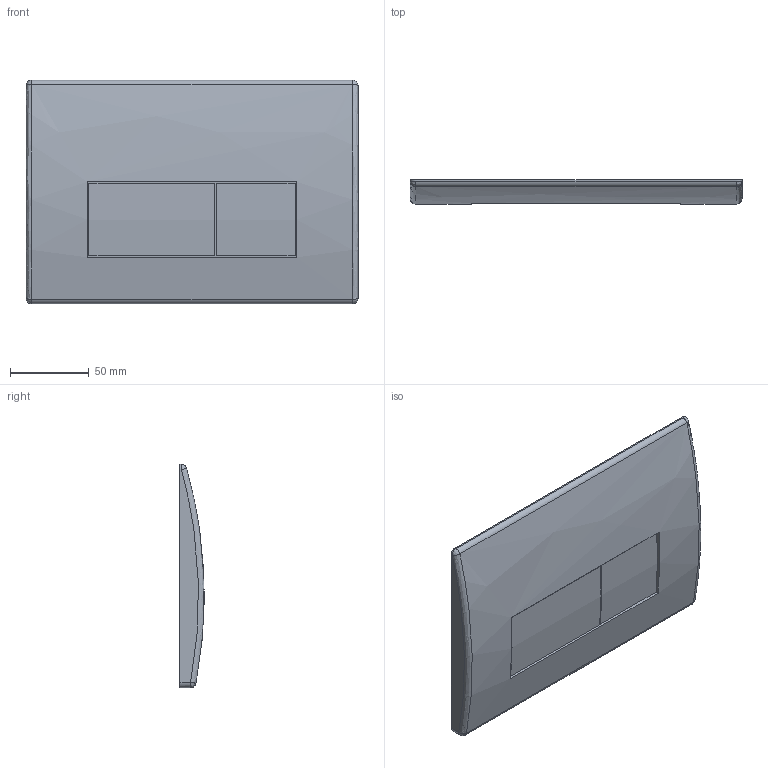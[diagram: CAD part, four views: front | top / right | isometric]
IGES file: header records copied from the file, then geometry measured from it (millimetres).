
Global section: file name: 115260; native system: Autodesk Inventor 2018; preprocessor: unknown; author: JANAN; date: 20220322.152926; units: millimetre
Bounding box: 211 x 15.33 x 142 mm (x, y, z)
Volume: 365193.1 mm3; surface area: 81381.3 mm2
Topology: 3 solids, 3 shells, 35 faces, 72 edges, 44 vertices
Faces by surface type: bspline 35
